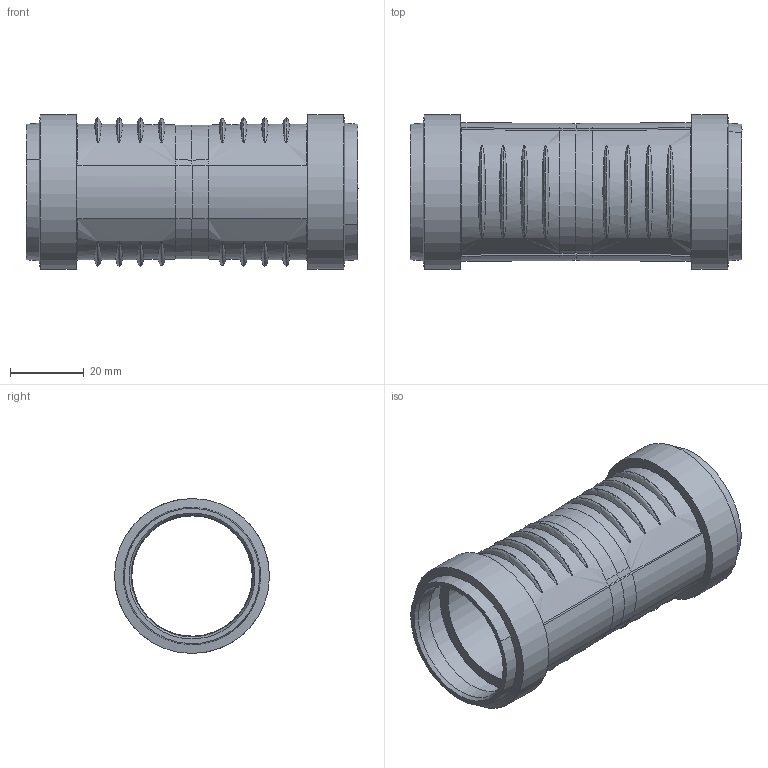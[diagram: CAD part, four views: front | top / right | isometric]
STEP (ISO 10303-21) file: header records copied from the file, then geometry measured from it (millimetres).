
FILE_DESCRIPTION(/* description */ (''),/* implementation_level */ '2;1');
FILE_NAME(/* name */ '390017.stp',/* time_stamp */ '2023-09-26T13:19:51+02:00',/* author */ ('JANAN'),/* organization */ (''),/* preprocessor_version */ 'ST-DEVELOPER v19.2',/* originating_system */ 'Autodesk Inventor 2023',/* authorisation */ '');
FILE_SCHEMA (('AUTOMOTIVE_DESIGN { 1 0 10303 214 3 1 1 }'));
Length unit declared in the file: millimetre
Products named in the file (1): tmpB758.tmp
Bounding box: 90 x 41.99 x 41.99 mm (x, y, z)
Volume: 23164.7 mm3; surface area: 23546.1 mm2
Topology: 1 solids, 1 shells, 86 faces, 195 edges, 128 vertices
Faces by surface type: bspline 63, cone 10, cylinder 7, plane 6
Full cylindrical faces by diameter (mm): 32.65 x1, 33 x2, 38.4 x2, 42 x2
Entity records: 9515 total; most frequent: CARTESIAN_POINT 7728, ORIENTED_EDGE 394, DIRECTION 277, EDGE_CURVE 197, VERTEX_POINT 130, AXIS2_PLACEMENT_3D 130, CIRCLE 106, EDGE_LOOP 105
